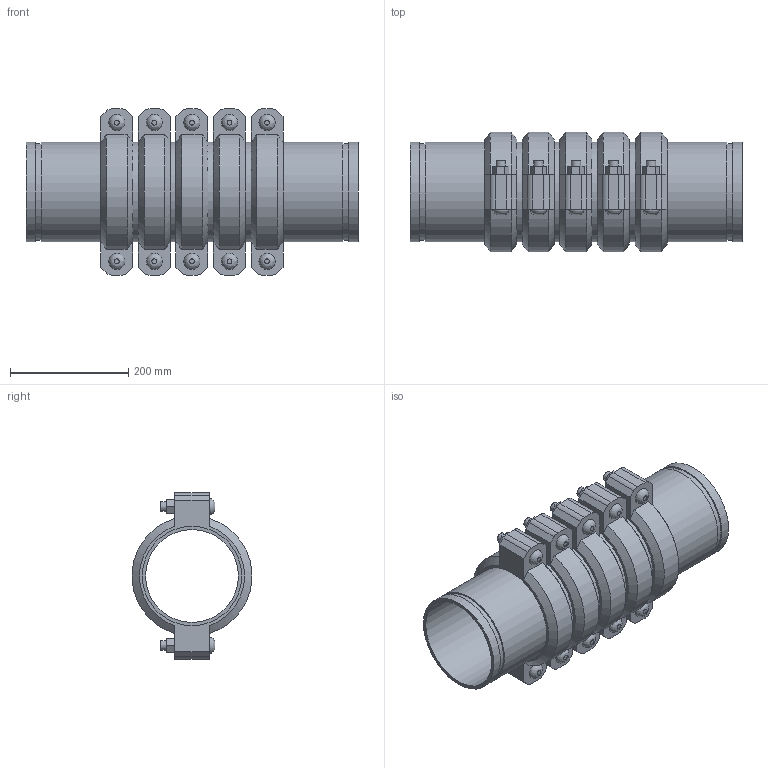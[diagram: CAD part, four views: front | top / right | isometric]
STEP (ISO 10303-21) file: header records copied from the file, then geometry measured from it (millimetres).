
FILE_DESCRIPTION(/* description */ ('VIC SS EXPANSION JOINT 5 COUPLINGS NEUTRAL STYLE 155P (OGS) (POTABLE WATER) ','CAx-IF Rec.Pracs.---Representation and Presentation of Product Manufacturing Information (PMI)---4.0---2014-10-13'),/* implementation_level */ '2;1');
FILE_NAME(/* name */ 'C:\Users\kkamble\AppData\Roaming\Autodesk\ApplicationPlugins\Victaulic.Temp\A327\Victaulic_SS_Expansion Joint_Neutral_5 Couplings_Style 155P (OGS)-Potable Water_5 Coup_Neut_6 (150).stp',/* time_stamp */ '2021-07-16T16:34:54+05:00',/* author */ ('kkamble'),/* organization */ ('Victaulic'),/* preprocessor_version */ 'ST-DEVELOPER v17.2',/* originating_system */ 'Autodesk Inventor 2019',/* authorisation */ '');
FILE_SCHEMA (('AP242_MANAGED_MODEL_BASED_3D_ENGINEERING_MIM_LF { 1 0 10303 442 1 1 4 }'));
Length unit declared in the file: inch
Products named in the file (4): 155P-06.0; Nipple-06.0; Nipple-06.0_1; 075-06.0
Assembly tree (11 placements, depth 2):
  155P-06.0
    Nipple-06.0  x2
    Nipple-06.0_1  x4
    075-06.0  x5
Bounding box: 561.85 x 202.46 x 281.18 mm (x, y, z)
Volume: 5200699.2 mm3; surface area: 1184408.7 mm2
Topology: 11 solids, 21 shells, 357 faces, 845 edges, 594 vertices
Faces by surface type: plane 216, cylinder 111, cone 20, bspline 10
Full cylindrical faces by diameter (mm): 15.875 x20, 17.424 x10, 157.15 x6, 161.925 x5, 163.957 x12, 168.275 x28
Entity records: 2801 total; most frequent: CARTESIAN_POINT 495, DIRECTION 465, ORIENTED_EDGE 386, EDGE_CURVE 193, AXIS2_PLACEMENT_3D 186, VERTEX_POINT 138, EDGE_LOOP 107, LINE 93
